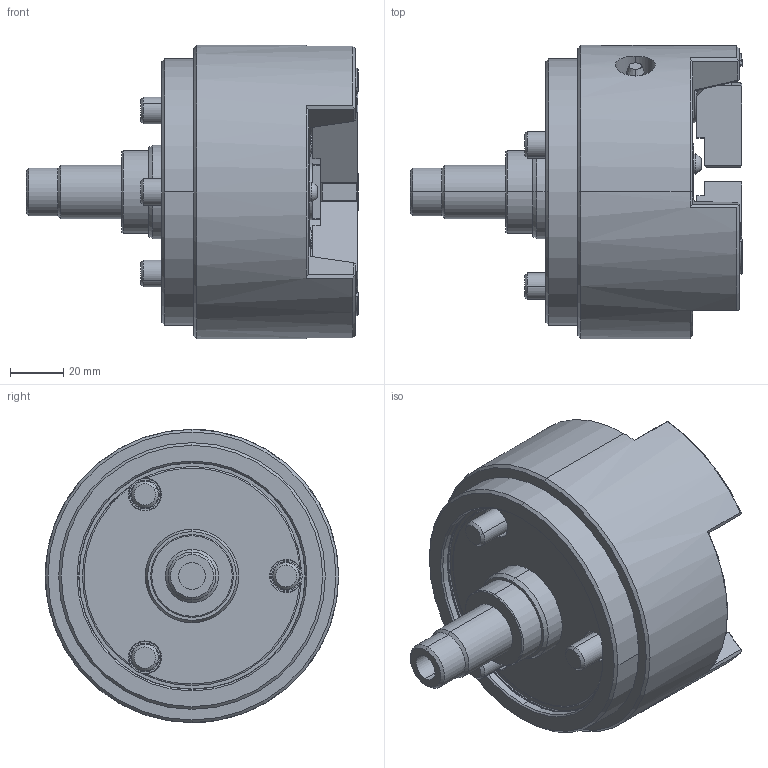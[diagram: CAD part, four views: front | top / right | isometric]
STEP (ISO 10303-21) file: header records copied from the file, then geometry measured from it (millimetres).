
FILE_DESCRIPTION (( 'STEP AP214' ), '1' );
FILE_NAME ('PU204_OC.STEP', '2019-10-18T07:20:53', ( '' ), ( '' ), 'SwSTEP 2.0', 'SolidWorks 2017', '' );
FILE_SCHEMA (( 'AUTOMOTIVE_DESIGN' ));
Length unit declared in the file: millimetre
Products named in the file (4): 結合; 0030106016; 61P443069; PU204_OC
Assembly tree (7 placements, depth 2):
  PU204_OC
    61P443069  x3
    0030106016  x3
    結合
Bounding box: 124.5 x 110 x 110 mm (x, y, z)
Volume: 536929.9 mm3; surface area: 82208.7 mm2
Topology: 7 solids, 8 shells, 971 faces, 2464 edges, 1560 vertices
Faces by surface type: plane 494, cone 167, cylinder 155, bspline 124, torus 31
Entity records: 31508 total; most frequent: CARTESIAN_POINT 11266, ORIENTED_EDGE 4452, DIRECTION 3706, EDGE_CURVE 2226, VERTEX_POINT 1426, AXIS2_PLACEMENT_3D 1256, LINE 1194, VECTOR 1194
